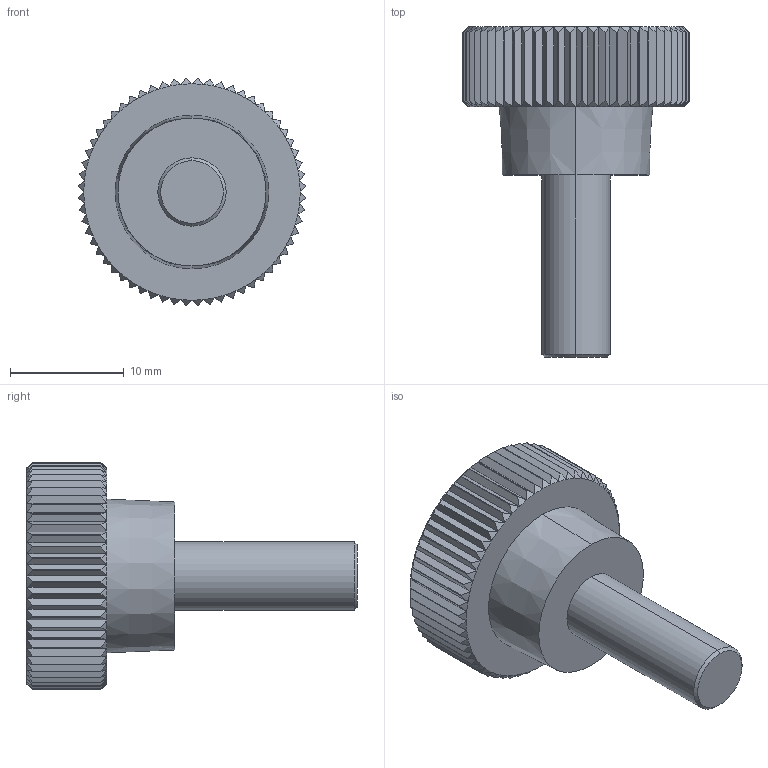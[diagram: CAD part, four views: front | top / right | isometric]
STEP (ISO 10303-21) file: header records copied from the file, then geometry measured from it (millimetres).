
FILE_DESCRIPTION (( 'STEP AP203' ), '1' );
FILE_NAME ('wn4662_20-m6x16.step', '2007-02-15T10:22:09', ( 'Magnus Fahlstrom' ), ( '' ), 'SwSTEP 2.0', 'SolidWorks 2007', '' );
FILE_SCHEMA (( 'CONFIG_CONTROL_DESIGN' ));
Length unit declared in the file: millimetre
Products named in the file (1): wn4662_20-m6x16
Bounding box: 19.98 x 29 x 19.98 mm (x, y, z)
Volume: 3303.2 mm3; surface area: 2024.4 mm2
Topology: 3 solids, 3 shells, 321 faces, 694 edges, 382 vertices
Faces by surface type: plane 129, cone 126, cylinder 66
Entity records: 8787 total; most frequent: CARTESIAN_POINT 2118, ORIENTED_EDGE 1388, DIRECTION 1360, EDGE_CURVE 694, AXIS2_PLACEMENT_3D 584, VERTEX_POINT 382, EDGE_LOOP 324, ADVANCED_FACE 321
